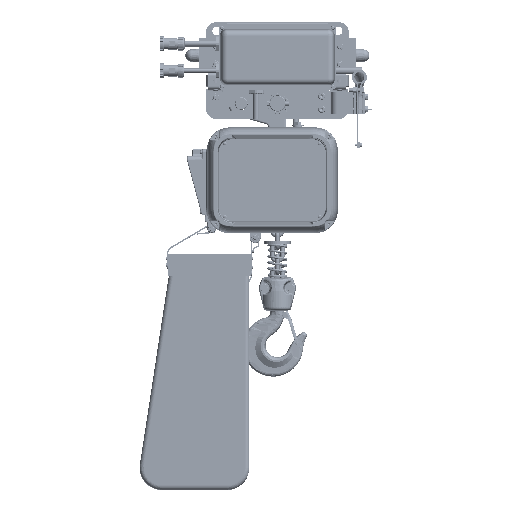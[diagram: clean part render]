
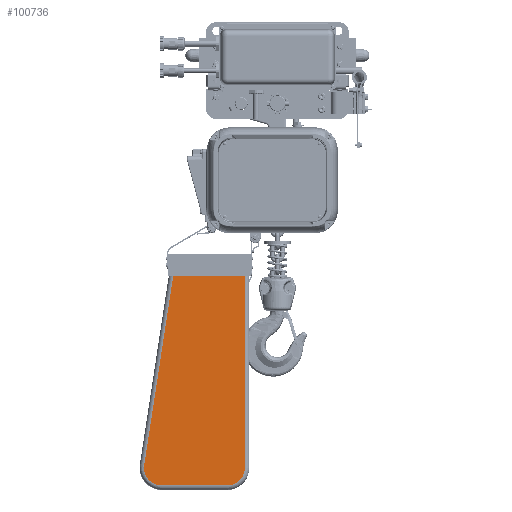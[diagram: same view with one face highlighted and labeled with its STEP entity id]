
A CAD part, top view. The second image highlights one B-rep face of the part: STEP entity #100736.
In plain terms, the highlighted planar face has unit normal (0, 0, 1).
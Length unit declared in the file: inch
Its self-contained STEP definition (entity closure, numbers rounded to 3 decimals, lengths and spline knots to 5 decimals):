
#222 = DIRECTION ( 'NONE',  ( 1., 0., 0. ) ) ;
#875 = DIRECTION ( 'NONE',  ( -0.152, -0.988, 0. ) ) ;
#10308 = VERTEX_POINT ( 'NONE', #345799 ) ;
#19782 = EDGE_LOOP ( 'NONE', ( #187260, #84246, #296495, #132702, #244976, #183270 ) ) ;
#19983 = CARTESIAN_POINT ( 'NONE',  ( -3.24772, -1.969, 3.54331 ) ) ;
#24608 = DIRECTION ( 'NONE',  ( 0., 0., 1. ) ) ;
#25670 = PLANE ( 'NONE',  #336956 ) ;
#30394 = VECTOR ( 'NONE', #363823, 39.37008 ) ;
#47357 = FACE_OUTER_BOUND ( 'NONE', #19782, .T. ) ;
#53898 = CARTESIAN_POINT ( 'NONE',  ( -5.83132, -18.81641, 3.54331 ) ) ;
#59710 = LINE ( 'NONE', #53898, #309907 ) ;
#82764 = EDGE_CURVE ( 'NONE', #175350, #10308, #360033, .T. ) ;
#84246 = ORIENTED_EDGE ( 'NONE', *, *, #86653, .T. ) ;
#85003 = CARTESIAN_POINT ( 'NONE',  ( 1.5748, -20.62992, 3.54331 ) ) ;
#86653 = EDGE_CURVE ( 'NONE', #260005, #330406, #90711, .T. ) ;
#90711 = LINE ( 'NONE', #273409, #30394 ) ;
#92995 = VECTOR ( 'NONE', #377782, 39.37008 ) ;
#100736 = ADVANCED_FACE ( 'NONE', ( #47357 ), #25670, .T. ) ;
#112481 = LINE ( 'NONE', #200909, #92995 ) ;
#132702 = ORIENTED_EDGE ( 'NONE', *, *, #382873, .T. ) ;
#133021 = AXIS2_PLACEMENT_3D ( 'NONE', #273075, #353748, #222 ) ;
#145470 = CARTESIAN_POINT ( 'NONE',  ( 3.5435, -1.969, 3.54331 ) ) ;
#166400 = EDGE_CURVE ( 'NONE', #10308, #260005, #208109, .T. ) ;
#167226 = DIRECTION ( 'NONE',  ( 1., 0., 0. ) ) ;
#173810 = CARTESIAN_POINT ( 'NONE',  ( -4.27471, -19.05512, 3.54331 ) ) ;
#175350 = VERTEX_POINT ( 'NONE', #341134 ) ;
#183270 = ORIENTED_EDGE ( 'NONE', *, *, #82764, .T. ) ;
#187260 = ORIENTED_EDGE ( 'NONE', *, *, #166400, .T. ) ;
#200909 = CARTESIAN_POINT ( 'NONE',  ( 3.5435, -1.969, 3.54331 ) ) ;
#208109 = CIRCLE ( 'NONE', #133021, 1.5748 ) ;
#208598 = EDGE_CURVE ( 'NONE', #266910, #330406, #112481, .T. ) ;
#212594 = EDGE_CURVE ( 'NONE', #323653, #175350, #295603, .T. ) ;
#223020 = VECTOR ( 'NONE', #358111, 39.37008 ) ;
#224933 = CARTESIAN_POINT ( 'NONE',  ( 3.14961, -19.05512, 3.54331 ) ) ;
#230992 = CARTESIAN_POINT ( 'NONE',  ( 3.14961, -1.969, 3.54331 ) ) ;
#244976 = ORIENTED_EDGE ( 'NONE', *, *, #212594, .T. ) ;
#260005 = VERTEX_POINT ( 'NONE', #224933 ) ;
#264181 = DIRECTION ( 'NONE',  ( 1., 0., 0. ) ) ;
#265235 = DIRECTION ( 'NONE',  ( 0., 0., 1. ) ) ;
#266910 = VERTEX_POINT ( 'NONE', #19983 ) ;
#273075 = CARTESIAN_POINT ( 'NONE',  ( 1.5748, -19.05512, 3.54331 ) ) ;
#273409 = CARTESIAN_POINT ( 'NONE',  ( 3.14961, -1.969, 3.54331 ) ) ;
#295603 = CIRCLE ( 'NONE', #320550, 1.5748 ) ;
#296495 = ORIENTED_EDGE ( 'NONE', *, *, #208598, .F. ) ;
#309907 = VECTOR ( 'NONE', #875, 39.37008 ) ;
#320550 = AXIS2_PLACEMENT_3D ( 'NONE', #173810, #24608, #264181 ) ;
#323653 = VERTEX_POINT ( 'NONE', #370243 ) ;
#330406 = VERTEX_POINT ( 'NONE', #230992 ) ;
#336956 = AXIS2_PLACEMENT_3D ( 'NONE', #145470, #265235, #167226 ) ;
#341134 = CARTESIAN_POINT ( 'NONE',  ( -4.27471, -20.62992, 3.54331 ) ) ;
#345799 = CARTESIAN_POINT ( 'NONE',  ( 1.5748, -20.62992, 3.54331 ) ) ;
#353748 = DIRECTION ( 'NONE',  ( 0., 0., 1. ) ) ;
#358111 = DIRECTION ( 'NONE',  ( 1., 0., 0. ) ) ;
#360033 = LINE ( 'NONE', #85003, #223020 ) ;
#363823 = DIRECTION ( 'NONE',  ( 0., 1., 0. ) ) ;
#370243 = CARTESIAN_POINT ( 'NONE',  ( -5.83132, -18.81641, 3.54331 ) ) ;
#377782 = DIRECTION ( 'NONE',  ( 1., 0., 0. ) ) ;
#382873 = EDGE_CURVE ( 'NONE', #266910, #323653, #59710, .T. ) ;
